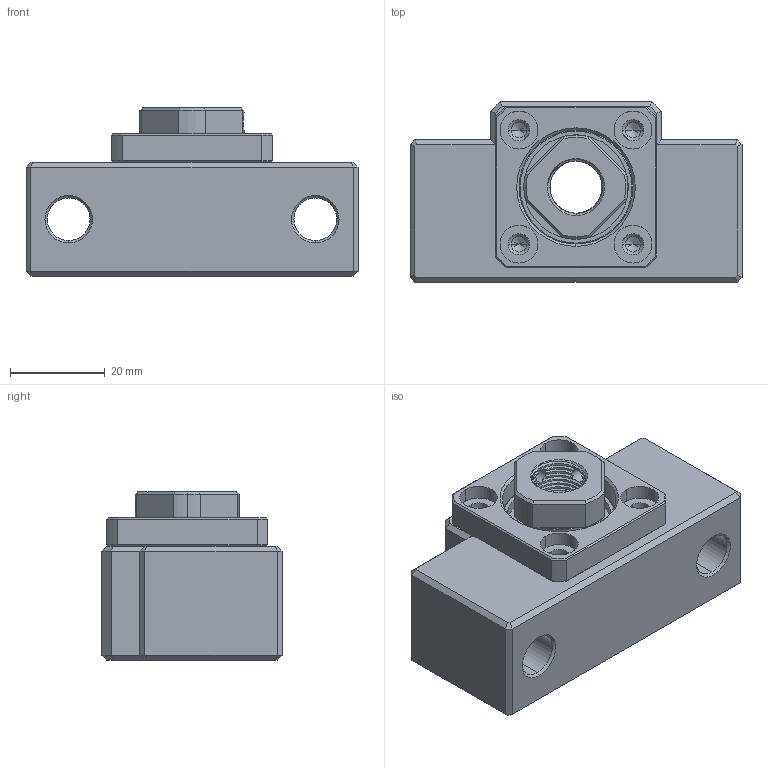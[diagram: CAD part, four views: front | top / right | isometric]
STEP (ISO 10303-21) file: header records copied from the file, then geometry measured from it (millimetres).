
FILE_DESCRIPTION (( 'STEP AP203' ), '1' );
FILE_NAME ('LK12組合圖.STEP', '2010-08-11T11:41:38', ( '' ), ( '' ), 'SwSTEP 2.0', 'SolidWorks 2008', '' );
FILE_SCHEMA (( 'CONFIG_CONTROL_DESIGN' ));
Length unit declared in the file: millimetre
Products named in the file (1): LK12組合圖
Bounding box: 70 x 38 x 35.5 mm (x, y, z)
Volume: 49398.7 mm3; surface area: 27353.2 mm2
Topology: 35 solids, 35 shells, 449 faces, 1067 edges, 643 vertices
Faces by surface type: cylinder 119, plane 101, torus 90, cone 74, sphere 48, bspline 17
Entity records: 20260 total; most frequent: CARTESIAN_POINT 10550, DIRECTION 2162, ORIENTED_EDGE 1878, EDGE_CURVE 939, AXIS2_PLACEMENT_3D 928, VERTEX_POINT 571, EDGE_LOOP 498, CIRCLE 495
